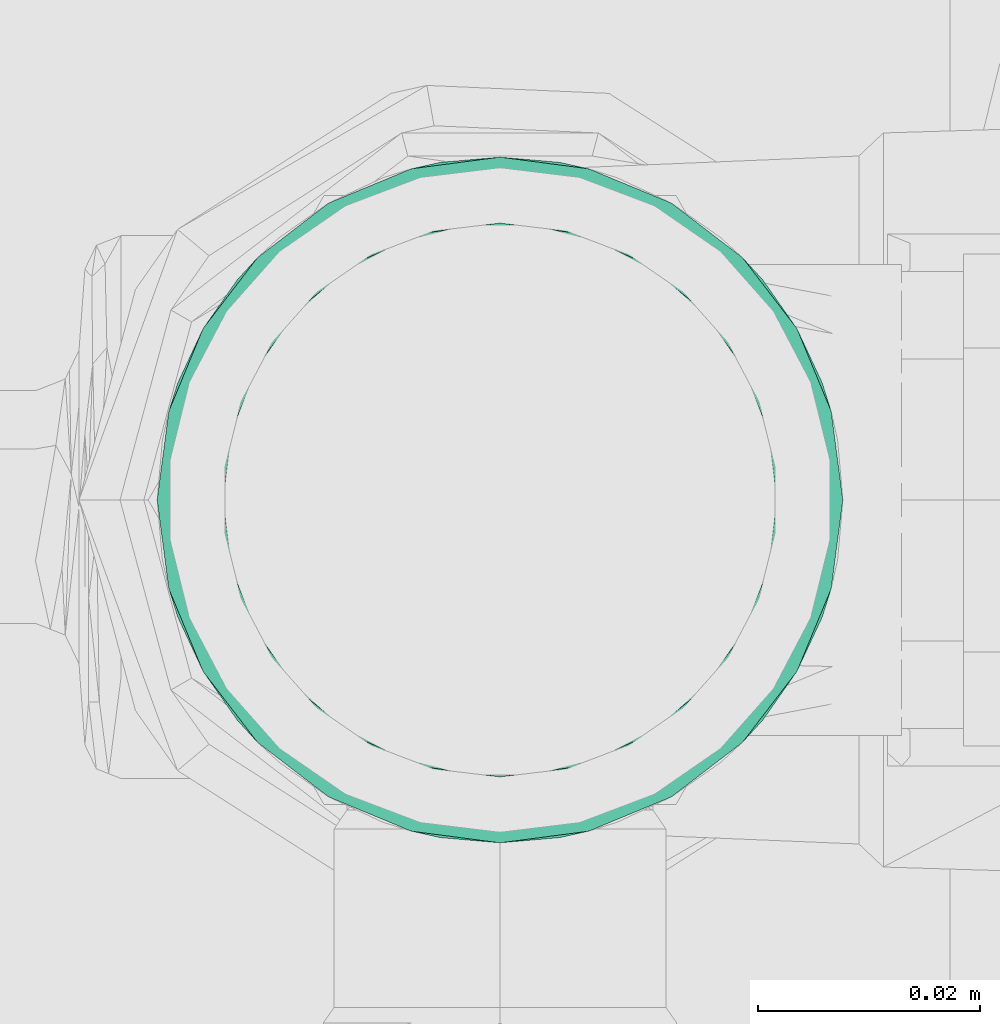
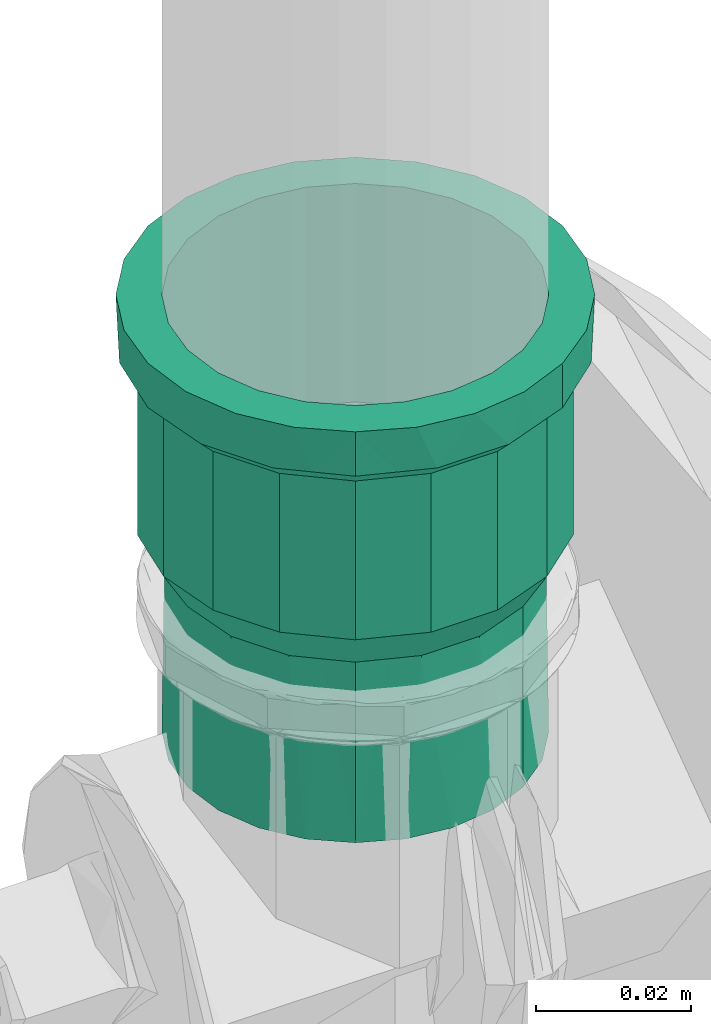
# One storey, part 79 of 589: 1 flow fitting.
"""IFC2X3 building model written with IfcOpenShell, lengths in millimetres."""

from ifc_helpers import new_model, entity, si_unit, converted_unit, derived_unit, direction, frame, origin, place, context, subcontext, project, spatial, faceted_brep, source, transform, mapped, material, type_object, type_shapes, element, save


model = new_model("IFC2X3")

# Units and contexts
model_context = context("Model", 3, precision=0.01, world=origin(), true_north=direction((6.123031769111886e-17, 1.0)))
body_context = subcontext(model_context, "Body", "Model", "MODEL_VIEW")
ifc_project = project(units=[si_unit("LENGTHUNIT", "METRE", prefix="MILLI"), si_unit("AREAUNIT", "SQUARE_METRE"), si_unit("VOLUMEUNIT", "CUBIC_METRE"), converted_unit("PLANEANGLEUNIT", "DEGREE", entity("IfcRatioMeasure", 0.017453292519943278), si_unit("PLANEANGLEUNIT", "RADIAN"), dimensions=[0, 0, 0, 0, 0, 0, 0]), si_unit("MASSUNIT", "GRAM", prefix="KILO"), derived_unit("MASSDENSITYUNIT", [(si_unit("MASSUNIT", "GRAM", prefix="KILO"), 1), (si_unit("LENGTHUNIT", "METRE"), -3)]), derived_unit("IONCONCENTRATIONUNIT", [(si_unit("MASSUNIT", "GRAM", prefix="KILO"), 1), (si_unit("LENGTHUNIT", "METRE"), -3)]), derived_unit("MOMENTOFINERTIAUNIT", [(si_unit("LENGTHUNIT", "METRE"), 4)]), si_unit("TIMEUNIT", "SECOND"), si_unit("FREQUENCYUNIT", "HERTZ"), si_unit("THERMODYNAMICTEMPERATUREUNIT", "DEGREE_CELSIUS"), derived_unit("THERMALTRANSMITTANCEUNIT", [(si_unit("MASSUNIT", "GRAM", prefix="KILO"), 1), (si_unit("THERMODYNAMICTEMPERATUREUNIT", "KELVIN"), -1), (si_unit("TIMEUNIT", "SECOND"), -3)]), derived_unit("THERMALCONDUCTANCEUNIT", [(si_unit("MASSUNIT", "GRAM", prefix="KILO"), 1), (si_unit("THERMODYNAMICTEMPERATUREUNIT", "KELVIN"), -1), (si_unit("TIMEUNIT", "SECOND"), -3), (si_unit("LENGTHUNIT", "METRE"), 1)]), derived_unit("VOLUMETRICFLOWRATEUNIT", [(si_unit("LENGTHUNIT", "METRE"), 3), (si_unit("TIMEUNIT", "SECOND"), -1)]), derived_unit("MASSFLOWRATEUNIT", [(si_unit("MASSUNIT", "GRAM", prefix="KILO"), 1), (si_unit("TIMEUNIT", "SECOND"), -1)]), derived_unit("ROTATIONALFREQUENCYUNIT", [(si_unit("TIMEUNIT", "SECOND"), -1)]), si_unit("ELECTRICCURRENTUNIT", "AMPERE"), si_unit("ELECTRICVOLTAGEUNIT", "VOLT"), si_unit("POWERUNIT", "WATT"), si_unit("FORCEUNIT", "NEWTON", prefix="KILO"), si_unit("ILLUMINANCEUNIT", "LUX"), si_unit("LUMINOUSFLUXUNIT", "LUMEN"), si_unit("LUMINOUSINTENSITYUNIT", "CANDELA"), derived_unit("USERDEFINED", [(si_unit("MASSUNIT", "GRAM", prefix="KILO"), -1), (si_unit("LENGTHUNIT", "METRE"), -2), (si_unit("TIMEUNIT", "SECOND"), 3), (si_unit("LUMINOUSFLUXUNIT", "LUMEN"), 1)]), derived_unit("USERDEFINED", [(si_unit("MASSUNIT", "GRAM", prefix="KILO"), 1), (si_unit("TIMEUNIT", "SECOND"), -3), (si_unit("LENGTHUNIT", "METRE"), 3), (si_unit("ELECTRICCURRENTUNIT", "AMPERE"), -2)]), derived_unit("SOUNDPOWERUNIT", [(si_unit("MASSUNIT", "GRAM", prefix="KILO"), 1), (si_unit("TIMEUNIT", "SECOND"), -3), (si_unit("LENGTHUNIT", "METRE"), 2)]), derived_unit("SOUNDPRESSUREUNIT", [(si_unit("MASSUNIT", "GRAM", prefix="KILO"), 1), (si_unit("LENGTHUNIT", "METRE"), -1), (si_unit("TIMEUNIT", "SECOND"), -2)]), derived_unit("LINEARVELOCITYUNIT", [(si_unit("LENGTHUNIT", "METRE"), 1), (si_unit("TIMEUNIT", "SECOND"), -1)]), si_unit("PRESSUREUNIT", "PASCAL"), derived_unit("USERDEFINED", [(si_unit("MASSUNIT", "GRAM", prefix="KILO"), 1), (si_unit("LENGTHUNIT", "METRE"), -2), (si_unit("TIMEUNIT", "SECOND"), -2)]), derived_unit("LINEARFORCEUNIT", [(si_unit("MASSUNIT", "GRAM", prefix="KILO"), 1), (si_unit("TIMEUNIT", "SECOND"), -2)]), derived_unit("PLANARFORCEUNIT", [(si_unit("MASSUNIT", "GRAM", prefix="KILO"), 1), (si_unit("LENGTHUNIT", "METRE"), -1), (si_unit("TIMEUNIT", "SECOND"), -2)]), derived_unit("SPECIFICHEATCAPACITYUNIT", [(si_unit("THERMODYNAMICTEMPERATUREUNIT", "KELVIN"), -1), (si_unit("LENGTHUNIT", "METRE"), 2), (si_unit("TIMEUNIT", "SECOND"), -2)]), derived_unit("HEATINGVALUEUNIT", [(si_unit("LENGTHUNIT", "METRE"), 2), (si_unit("TIMEUNIT", "SECOND"), -2)]), derived_unit("VAPORPERMEABILITYUNIT", [(si_unit("LENGTHUNIT", "METRE"), -1), (si_unit("TIMEUNIT", "SECOND"), 1)]), derived_unit("DYNAMICVISCOSITYUNIT", [(si_unit("MASSUNIT", "GRAM", prefix="KILO"), 1), (si_unit("TIMEUNIT", "SECOND"), -1), (si_unit("LENGTHUNIT", "METRE"), -1)]), derived_unit("THERMALEXPANSIONCOEFFICIENTUNIT", [(si_unit("THERMODYNAMICTEMPERATUREUNIT", "KELVIN"), -1)]), derived_unit("MODULUSOFELASTICITYUNIT", [(si_unit("MASSUNIT", "GRAM", prefix="KILO"), 1), (si_unit("LENGTHUNIT", "METRE"), -1), (si_unit("TIMEUNIT", "SECOND"), -2)]), derived_unit("ISOTHERMALMOISTURECAPACITYUNIT", [(si_unit("LENGTHUNIT", "METRE"), 3), (si_unit("MASSUNIT", "GRAM", prefix="KILO"), -1)]), derived_unit("MOISTUREDIFFUSIVITYUNIT", [(si_unit("TIMEUNIT", "SECOND"), -1), (si_unit("LENGTHUNIT", "METRE"), 2)])], contexts=[model_context])

# Site, building, storey
site_placement = place(None, origin())
site = spatial("IfcSite", under=ifc_project, at=site_placement, Name="Default", CompositionType="ELEMENT")
building_placement = place(site_placement, origin())
building = spatial("IfcBuilding", under=site, at=building_placement, CompositionType="ELEMENT")
storey_placement = place(building_placement, frame((0.0, 0.0, 100.0)))
storey = spatial("IfcBuildingStorey", under=building, at=storey_placement, Name="TÉRREO", CompositionType="ELEMENT", Elevation=100.0)

# Flow fitting
ifc_material = material(Name="PVC Marrom")
pipe_fitting_type = type_object("IfcPipeFittingType", Name="PVC Marrom Soldável_Adaptador Curto com Bolsa e Rosca Aninhado_Rodrigo MEP:Adaptador", PredefinedType="NOTDEFINED", material=ifc_material)
shared_shape = source(origin(), body_context, "Body", "Brep", [
    faceted_brep([(0.0, 12.499999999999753, -21.65063509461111), (0.0, 21.884954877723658, -21.88495487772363), (0.0, 15.475000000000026, -26.803486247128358), (0.0, 17.677669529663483, -17.6776695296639), (0.0, 6.470476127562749, -24.14814565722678), (0.0, 26.803486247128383, -15.474999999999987), (0.0, 21.650635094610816, -12.500000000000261), (0.0, 24.148145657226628, -6.470476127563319), (0.0, 29.895404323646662, -8.01044944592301), (0.0, 25.0, 0.0), (0.0, 30.95, 0.0), (0.0, 24.14814565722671, 6.470476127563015), (0.0, 29.895404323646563, 8.010449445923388), (0.0, 21.65063509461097, 12.499999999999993), (0.0, 26.80348624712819, 15.475000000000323), (0.0, 17.6776695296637, 17.677669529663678), (0.0, 21.884954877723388, 21.884954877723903), (0.0, 12.500000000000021, 21.65063509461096), (0.0, 15.474999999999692, 26.803486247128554), (0.0, 6.4704761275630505, 24.1481456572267), (0.0, 8.010449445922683, 29.89540432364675), (0.0, 0.0, 25.0), (0.0, 0.0, 30.95), (0.0, -6.4704761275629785, 24.14814565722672), (0.0, -8.010449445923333, 29.895404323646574), (0.0, -12.49999999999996, 21.650635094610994), (0.0, -15.475000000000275, 26.803486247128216), (0.0, -17.677669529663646, 17.67766952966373), (0.0, -21.884954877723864, 21.884954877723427), (0.0, -21.65063509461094, 12.500000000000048), (0.0, -26.803486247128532, 15.474999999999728), (0.0, -29.89540432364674, 8.010449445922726), (0.0, -24.14814565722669, 6.4704761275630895), (0.0, -30.95, 0.0), (0.0, -25.0, 0.0), (0.0, -29.895404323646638, -8.010449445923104), (0.0, -24.148145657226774, -6.470476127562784), (0.0, -26.803486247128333, -15.475000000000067), (0.0, -21.6506350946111, -12.499999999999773), (0.0, -21.884954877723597, -21.884954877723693), (0.0, -17.677669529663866, -17.67766952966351), (0.0, -15.474999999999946, -26.803486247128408), (0.0, -12.500000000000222, -21.650635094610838), (0.0, -8.010449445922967, -29.895404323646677), (0.0, -6.470476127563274, -24.148145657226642), (0.0, 0.0, -30.95), (0.0, 0.0, -25.0), (0.0, 8.010449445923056, -29.895404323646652), (7.0, -30.016595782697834, 5.29316701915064), (7.0, -29.88065133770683, 6.064083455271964), (7.0, -29.083191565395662, 10.586334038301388), (7.0, -23.70796650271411, 19.895598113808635), (7.0, -19.590362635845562, 23.350189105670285), (7.0, -26.395579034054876, 15.24096607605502), (7.0, -5.3710129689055, 30.480398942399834), (7.0, -10.421885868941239, 28.6425895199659), (7.0, -30.95, 0.0), (7.0, -15.472758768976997, 26.804780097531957), (7.0, 10.42907040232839, 28.639974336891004), (7.0, 15.479482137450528, 26.80089798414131), (7.0, 5.37865866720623, 30.479050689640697), (7.0, 19.596219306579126, 23.345274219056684), (7.0, 23.712956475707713, 19.889650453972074), (7.0, 29.08584618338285, 10.57903832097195), (7.0, 30.95, 0.0), (7.0, 26.39940132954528, 15.234344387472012), (7.0, 0.0038228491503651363, 30.47972481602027), (7.0, 29.08584618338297, -10.579038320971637), (7.0, 23.71295647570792, -19.88965045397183), (7.0, 19.596219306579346, -23.3452742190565), (7.0, 26.39940132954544, -15.234344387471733), (7.0, 5.378658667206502, -30.47905068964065), (7.0, 10.429070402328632, -28.639974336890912), (7.0, 15.47948213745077, -26.800897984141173), (7.0, -30.0165957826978, -5.2931670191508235), (7.0, -10.421885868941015, -28.642589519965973), (7.0, -15.472758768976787, -26.804780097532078), (7.0, -5.3710129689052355, -30.480398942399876), (7.0, -19.590362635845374, -23.350189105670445), (7.0, -23.707966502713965, -19.895598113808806), (7.0, -29.083191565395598, -10.58633403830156), (7.0, -29.88065131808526, -6.064083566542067), (7.0, -26.395579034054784, -15.240966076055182), (7.0, 0.003822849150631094, -30.479724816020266), (9.400000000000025, -26.87493630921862, 9.782525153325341), (9.400000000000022, -27.737468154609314, 4.891262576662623), (34.4499999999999, -26.875116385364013, 9.782030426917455), (9.40000000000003, -18.102887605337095, 21.577234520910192), (34.4499999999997, -14.299296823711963, 24.768732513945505), (9.400000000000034, -14.297928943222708, 24.769522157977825), (9.400000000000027, -24.391391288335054, 14.083736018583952), (34.44999999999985, -24.391819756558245, 14.083085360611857), (34.4499999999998, -21.908523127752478, 18.384140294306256), (34.44999999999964, -4.965271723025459, 28.165689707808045), (9.400000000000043, -4.963197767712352, 28.16605524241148), (9.400000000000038, -9.63056335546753, 26.467788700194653), (9.400000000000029, -21.907846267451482, 18.384946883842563), (9.40000000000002, -28.600000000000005, 0.0), (34.44999999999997, -27.796398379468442, 4.557325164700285), (34.44999999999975, -18.103909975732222, 21.57643640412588), (34.44999999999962, 4.967670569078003, 28.165266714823), (9.400000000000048, 0.003532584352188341, 28.165432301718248), (34.44999999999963, 0.0011994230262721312, 28.165478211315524), (34.44999999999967, -9.632284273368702, 26.46721111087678), (9.400000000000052, 4.970262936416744, 28.164809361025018), (9.400000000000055, 9.63720237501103, 26.465372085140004), (34.449999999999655, 14.301406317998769, 24.76751455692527), (9.40000000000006, 14.304141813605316, 24.765934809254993), (34.449999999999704, 18.105747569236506, 21.574894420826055), (34.44999999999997, -27.73755819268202, 4.891015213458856), (34.449999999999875, 26.875949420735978, 9.779741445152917), (34.450000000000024, 28.600000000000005, 0.0), (9.400000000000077, 26.87738936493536, 9.77578339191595), (34.449999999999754, 21.910088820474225, 18.38227428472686), (9.40000000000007, 21.91245735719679, 18.379450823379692), (9.400000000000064, 18.108299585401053, 21.57269281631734), (34.44999999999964, 9.634538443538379, 26.46639063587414), (9.400000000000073, 24.394923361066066, 14.077617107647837), (34.450000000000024, -28.600000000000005, 0.0), (9.40000000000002, 28.600000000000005, 0.0), (34.44999999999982, 24.3930191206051, 14.081007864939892), (9.40000000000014, 26.87738936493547, -9.77578339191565), (34.45000000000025, 26.87594942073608, -9.77974144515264), (9.400000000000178, -18.10288760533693, -21.577234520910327), (34.45000000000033, -14.299296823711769, -24.76873251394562), (34.45000000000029, -18.10390997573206, -21.57643640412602), (9.400000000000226, 18.108299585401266, -21.57269281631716), (9.400000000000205, 21.912457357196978, -18.37945082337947), (34.450000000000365, 21.910088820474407, -18.38227428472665), (9.400000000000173, 24.394923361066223, -14.077617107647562), (34.45000000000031, 24.393019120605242, -14.081007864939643), (9.40000000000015, -21.907846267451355, -18.384946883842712), (34.45000000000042, 0.0011994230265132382, -28.165478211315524), (9.400000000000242, -4.963197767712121, -28.166055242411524), (9.40000000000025, 0.0035325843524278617, -28.165432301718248), (9.40000000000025, 9.637202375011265, -26.46537208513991), (9.400000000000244, 14.304141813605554, -24.765934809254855), (34.45000000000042, 14.301406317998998, -24.76751455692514), (9.400000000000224, -9.63056335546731, -26.467788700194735), (34.45000000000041, -4.965271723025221, -28.165689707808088), (34.45000000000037, -9.632284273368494, -26.467211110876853), (34.45000000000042, 9.634538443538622, -26.46639063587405), (9.400000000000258, 4.970262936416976, -28.164809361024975), (9.400000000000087, -26.874936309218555, -9.782525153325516), (9.40000000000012, -24.391391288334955, -14.083736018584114), (34.45000000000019, -24.391819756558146, -14.083085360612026), (34.450000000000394, 18.1057475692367, -21.574894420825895), (34.450000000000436, 4.967670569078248, -28.16526671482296), (34.45000000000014, -26.875116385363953, -9.782030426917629), (34.45000000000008, -27.796398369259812, -4.557325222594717), (9.400000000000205, -14.297928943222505, -24.769522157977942), (9.400000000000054, -27.737468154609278, -4.891262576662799), (34.450000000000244, -21.908523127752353, -18.38414029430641), (34.45000000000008, -27.737558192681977, -4.891015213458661), (69.0, 6.4704761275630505, -24.1481456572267), (69.0, 12.500000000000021, -21.65063509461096), (69.0, 17.6776695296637, -17.677669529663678), (69.0, 21.650635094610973, -12.499999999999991), (69.0, 24.14814565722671, -6.470476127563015), (69.0, 25.0, 0.0), (69.0, 24.148145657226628, 6.470476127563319), (69.0, 21.650635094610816, 12.500000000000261), (69.0, 17.677669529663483, 17.6776695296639), (69.0, 12.499999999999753, 21.65063509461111), (69.0, 6.470476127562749, 24.14814565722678), (69.0, 0.0, 25.0), (69.0, -6.470476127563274, 24.148145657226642), (69.0, -12.500000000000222, 21.650635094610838), (69.0, -17.67766952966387, 17.677669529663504), (69.0, -21.650635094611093, 12.499999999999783), (69.0, -24.148145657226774, 6.470476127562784), (69.0, -25.0, 0.0), (69.0, -24.14814565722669, -6.4704761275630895), (69.0, -21.650635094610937, -12.500000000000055), (69.0, -17.677669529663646, -17.67766952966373), (69.0, -12.49999999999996, -21.650635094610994), (69.0, -6.4704761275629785, -24.14814565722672), (69.0, 0.0, -25.0), (40.499999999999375, -8.41832461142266, 23.136178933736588), (40.49999999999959, -19.1502152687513, 16.070757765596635), (40.49999999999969, -21.321146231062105, 12.310958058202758), (40.49999999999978, -23.492077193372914, 8.551158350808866), (40.49999999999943, -12.498189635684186, 21.651680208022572), (40.49999999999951, -15.824202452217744, 18.861218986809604), (40.49999999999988, -24.246038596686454, 4.2755791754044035), (40.49999999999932, -4.3384595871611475, 24.620677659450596), (40.499999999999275, 4.344635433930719, 24.61958860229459), (40.499999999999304, 0.003087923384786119, 24.620133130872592), (40.49999999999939, 15.828933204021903, 18.85724896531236), (40.49999999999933, 12.503620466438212, 21.648544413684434), (40.49999999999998, -25.0, 0.0), (40.49999999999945, 19.154245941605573, 16.065953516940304), (40.49999999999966, 23.494221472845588, 8.545265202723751), (40.499999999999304, 8.424127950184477, 23.13406650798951), (40.49999999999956, 21.324233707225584, 12.305609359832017), (40.49999999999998, 25.0, 0.0), (40.500000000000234, 19.15424594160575, -16.065953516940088), (40.500000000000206, -15.824202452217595, -18.861218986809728), (40.50000000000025, -12.498189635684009, -21.65168020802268), (40.500000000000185, 21.32423370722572, -12.305609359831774), (40.50000000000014, 23.494221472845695, -8.545265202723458), (40.5000000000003, 12.503620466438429, -21.64854441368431), (40.50000000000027, 15.82893320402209, -18.8572489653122), (40.50000000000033, 4.344635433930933, -24.619588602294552), (40.50000000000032, 8.42412795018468, -23.13406650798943), (40.5000000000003, -4.3384595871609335, -24.62067765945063), (40.50000000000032, 0.00308792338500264, -24.620133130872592), (40.50000000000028, -8.41832461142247, -23.136178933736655), (40.50000000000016, -19.150215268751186, -16.070757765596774), (40.50000000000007, -23.49207719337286, -8.551158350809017), (40.500000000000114, -21.321146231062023, -12.31095805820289), (40.50000000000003, -24.246038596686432, -4.275579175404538), (9.40000000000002, -25.0, 0.0), (34.450000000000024, -25.0, 0.0), (34.450000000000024, -24.14814565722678, -6.470476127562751), (9.40000000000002, -24.14814565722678, -6.470476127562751), (7.0, -24.14814565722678, -6.470476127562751), (7.0, -25.0, 0.0), (34.450000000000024, -21.650635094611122, -12.499999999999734), (9.40000000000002, -21.650635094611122, -12.499999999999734), (7.0, -21.650635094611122, -12.499999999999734), (9.40000000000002, -12.500000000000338, -21.65063509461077), (7.0, -12.500000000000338, -21.65063509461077), (7.0, -17.677669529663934, -17.677669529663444), (9.40000000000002, -17.677669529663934, -17.677669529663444), (34.450000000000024, -17.677669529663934, -17.677669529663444), (34.450000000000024, -12.500000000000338, -21.65063509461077), (9.40000000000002, -6.470476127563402, -24.148145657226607), (7.0, -6.470476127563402, -24.148145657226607), (34.450000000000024, -6.470476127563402, -24.148145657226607), (34.450000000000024, 0.0, -25.0), (9.40000000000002, 0.0, -25.0), (7.0, 0.0, -25.0), (34.450000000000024, 6.470476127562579, -24.148145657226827), (9.40000000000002, 6.470476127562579, -24.148145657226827), (7.0, 6.470476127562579, -24.148145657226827), (34.450000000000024, 12.49999999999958, -21.65063509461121), (9.40000000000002, 12.49999999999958, -21.65063509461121), (7.0, 12.49999999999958, -21.65063509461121), (34.450000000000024, 24.148145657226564, -6.470476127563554), (34.450000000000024, 25.0, 0.0), (9.40000000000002, 25.0, 0.0), (7.0, 25.0, 0.0), (7.0, 24.14814565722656, -6.470476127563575), (9.40000000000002, 24.148145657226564, -6.470476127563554), (34.450000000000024, 17.677669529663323, -17.677669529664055), (9.40000000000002, 17.677669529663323, -17.677669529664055), (7.0, 17.677669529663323, -17.677669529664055), (34.450000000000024, 21.650635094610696, -12.500000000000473), (9.40000000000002, 21.650635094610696, -12.500000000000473), (7.0, 21.650635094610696, -12.500000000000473), (34.450000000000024, 24.148145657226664, 6.470476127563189), (9.40000000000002, 24.148145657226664, 6.470476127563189), (7.0, 24.148145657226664, 6.470476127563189), (34.450000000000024, 21.65063509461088, 12.50000000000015), (9.40000000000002, 21.65063509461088, 12.50000000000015), (7.0, 21.65063509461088, 12.50000000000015), (9.40000000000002, 12.49999999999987, 21.650635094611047), (7.0, 12.49999999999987, 21.650635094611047), (7.0, 17.677669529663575, 17.677669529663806), (9.40000000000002, 17.677669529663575, 17.677669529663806), (34.450000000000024, 17.677669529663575, 17.677669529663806), (34.450000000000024, 12.49999999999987, 21.650635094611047), (9.40000000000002, 6.470476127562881, 24.14814565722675), (7.0, 6.470476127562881, 24.14814565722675), (34.450000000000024, 6.470476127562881, 24.14814565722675), (34.450000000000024, 0.0, 25.0), (9.40000000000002, 0.0, 25.0), (7.0, 0.0, 25.0), (9.40000000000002, -17.677669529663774, 17.677669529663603), (7.0, -17.677669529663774, 17.677669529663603), (7.0, -12.50000000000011, 21.650635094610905), (9.40000000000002, -12.50000000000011, 21.650635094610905), (34.450000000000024, -12.50000000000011, 21.650635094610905), (34.450000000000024, -17.677669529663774, 17.677669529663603), (9.40000000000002, -24.14814565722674, 6.470476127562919), (7.0, -24.14814565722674, 6.470476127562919), (7.0, -21.650635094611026, 12.499999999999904), (9.40000000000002, -21.650635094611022, 12.499999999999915), (34.450000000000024, -21.650635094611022, 12.499999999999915), (34.450000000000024, -24.14814565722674, 6.470476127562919), (7.0, -6.470476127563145, 24.148145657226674), (9.40000000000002, -6.470476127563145, 24.148145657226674), (34.450000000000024, -6.470476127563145, 24.148145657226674)], [[[0, 1, 2]], [[3, 1, 0]], [[4, 0, 2]], [[1, 3, 5]], [[5, 3, 6]], [[5, 6, 7]], [[8, 5, 7]], [[9, 8, 7]], [[10, 8, 9]], [[10, 9, 11]], [[12, 10, 11]], [[12, 11, 13]], [[14, 12, 13]], [[14, 13, 15]], [[15, 16, 14]], [[15, 17, 16]], [[18, 16, 17]], [[19, 18, 17]], [[18, 19, 20]], [[21, 20, 19]], [[22, 20, 21]], [[21, 23, 22]], [[24, 22, 23]], [[25, 24, 23]], [[24, 25, 26]], [[25, 27, 26]], [[27, 28, 26]], [[28, 27, 29]], [[28, 29, 30]], [[30, 29, 31]], [[31, 29, 32]], [[33, 31, 32]], [[32, 34, 33]], [[33, 34, 35]], [[34, 36, 35]], [[37, 35, 36]], [[37, 36, 38]], [[39, 37, 38]], [[40, 39, 38]], [[40, 41, 39]], [[42, 41, 40]], [[43, 41, 42]], [[42, 44, 43]], [[43, 44, 45]], [[44, 46, 45]], [[46, 4, 47]], [[45, 46, 47]], [[2, 47, 4]], [[31, 48, 49, 50]], [[28, 51, 52]], [[51, 30, 50, 53]], [[54, 24, 55]], [[30, 31, 50]], [[56, 48, 33]], [[52, 57, 26]], [[52, 26, 28]], [[30, 51, 28]], [[58, 59, 18]], [[58, 18, 20]], [[26, 57, 55]], [[26, 55, 24]], [[22, 24, 54]], [[33, 48, 31]], [[20, 60, 58]], [[16, 61, 62]], [[12, 63, 64]], [[63, 14, 62, 65]], [[12, 64, 10]], [[18, 61, 16]], [[22, 54, 66, 60]], [[22, 60, 20]], [[14, 16, 62]], [[59, 61, 18]], [[14, 63, 12]], [[8, 64, 67]], [[1, 68, 69]], [[68, 5, 67, 70]], [[71, 47, 72]], [[5, 8, 67]], [[8, 10, 64]], [[2, 72, 47]], [[69, 73, 2]], [[5, 68, 1]], [[74, 33, 35]], [[75, 76, 41]], [[2, 73, 72]], [[75, 41, 43]], [[45, 47, 71]], [[69, 2, 1]], [[43, 77, 75]], [[39, 78, 79]], [[35, 80, 81, 74]], [[80, 37, 79, 82]], [[37, 80, 35]], [[41, 78, 39]], [[45, 71, 83, 77]], [[45, 77, 43]], [[37, 39, 79]], [[76, 78, 41]], [[74, 56, 33]], [[84, 85, 86]], [[87, 88, 89]], [[90, 91, 92]], [[93, 94, 95]], [[92, 96, 90]], [[85, 97, 98]], [[99, 87, 96]], [[91, 84, 86]], [[100, 101, 102]], [[93, 95, 103]], [[89, 103, 95]], [[84, 91, 90]], [[100, 104, 101]], [[88, 87, 99]], [[105, 106, 107]], [[108, 107, 106]], [[85, 98, 109, 86]], [[102, 94, 93]], [[110, 111, 112]], [[113, 114, 115]], [[116, 104, 100]], [[112, 117, 110]], [[113, 115, 108]], [[104, 116, 105]], [[97, 118, 98]], [[115, 107, 108]], [[119, 112, 111]], [[99, 96, 92]], [[117, 114, 120]], [[110, 117, 120]], [[103, 89, 88]], [[102, 101, 94]], [[120, 114, 113]], [[106, 105, 116]], [[121, 111, 122]], [[123, 124, 125]], [[126, 127, 128]], [[129, 122, 130]], [[125, 131, 123]], [[129, 121, 122]], [[132, 133, 134]], [[135, 136, 137]], [[138, 139, 140]], [[119, 111, 121]], [[130, 127, 129]], [[141, 142, 135]], [[143, 144, 145]], [[126, 128, 146]], [[134, 147, 132]], [[135, 137, 141]], [[132, 139, 133]], [[138, 133, 139]], [[137, 136, 146]], [[143, 145, 148]], [[147, 142, 141]], [[149, 118, 97]], [[123, 150, 124]], [[124, 150, 140]], [[148, 151, 143]], [[146, 136, 126]], [[152, 144, 131]], [[151, 148, 153, 149]], [[144, 152, 145]], [[152, 131, 125]], [[142, 147, 134]], [[149, 97, 151]], [[128, 127, 130]], [[140, 150, 138]], [[154, 155, 156, 157, 158, 159, 160, 161, 162, 163, 164, 165, 166, 167, 168, 169, 170, 171, 172, 173, 174, 175, 176, 177]], [[178, 167, 166]], [[169, 168, 179]], [[169, 179, 180, 181]], [[182, 183, 167]], [[170, 181, 184]], [[166, 185, 178]], [[179, 168, 183]], [[165, 186, 187, 185]], [[165, 185, 166]], [[167, 183, 168]], [[188, 189, 163]], [[184, 171, 170]], [[184, 190, 171]], [[161, 191, 162]], [[169, 181, 170]], [[161, 160, 192]], [[163, 193, 164]], [[161, 192, 194, 191]], [[195, 160, 159]], [[164, 193, 186]], [[186, 165, 164]], [[189, 193, 163]], [[188, 163, 162]], [[162, 191, 188]], [[160, 195, 192]], [[178, 182, 167]], [[195, 159, 158]], [[157, 156, 196]], [[197, 198, 175]], [[157, 196, 199, 200]], [[201, 202, 155]], [[200, 195, 158]], [[154, 203, 204]], [[196, 156, 202]], [[177, 205, 206, 203]], [[197, 175, 174]], [[155, 202, 156]], [[204, 201, 155]], [[175, 198, 207]], [[157, 200, 158]], [[204, 155, 154]], [[173, 208, 174]], [[173, 172, 209]], [[173, 209, 210, 208]], [[171, 190, 211]], [[205, 177, 176]], [[207, 205, 176]], [[175, 207, 176]], [[174, 208, 197]], [[211, 209, 172]], [[171, 211, 172]], [[177, 203, 154]], [[212, 213, 214, 215, 216, 36, 34, 217]], [[215, 214, 218, 219, 220, 38, 36, 216]], [[221, 222, 42, 40, 223, 224, 225, 226]], [[225, 224, 223, 40, 38, 220, 219, 218]], [[227, 228, 44, 42, 222, 221, 226, 229]], [[227, 229, 230, 231, 232, 46, 44, 228]], [[231, 230, 233, 234, 235, 4, 46, 232]], [[234, 233, 236, 237, 238, 0, 4, 235]], [[239, 240, 241, 242, 9, 7, 243, 244]], [[237, 236, 245, 246, 247, 3, 0, 238]], [[245, 248, 249, 250, 6, 3, 247, 246]], [[248, 239, 244, 243, 7, 6, 250, 249]], [[241, 240, 251, 252, 253, 11, 9, 242]], [[252, 251, 254, 255, 256, 13, 11, 253]], [[257, 258, 17, 15, 259, 260, 261, 262]], [[261, 260, 259, 15, 13, 256, 255, 254]], [[263, 264, 19, 17, 258, 257, 262, 265]], [[263, 265, 266, 267, 268, 21, 19, 264]], [[269, 270, 27, 25, 271, 272, 273, 274]], [[275, 276, 32, 29, 277, 278, 279, 280]], [[274, 279, 278, 277, 29, 27, 270, 269]], [[212, 217, 34, 32, 276, 275, 280, 213]], [[273, 272, 271, 25, 23, 281, 282, 283]], [[267, 266, 283, 282, 281, 23, 21, 268]], [[64, 119, 121, 67]], [[81, 80, 143, 151, 97, 56, 74]], [[73, 136, 135, 142, 71, 72]], [[71, 142, 134, 133, 77, 83]], [[73, 69, 68, 127, 126, 136]], [[127, 68, 70, 67, 121, 129]], [[77, 133, 138, 150, 76, 75]], [[143, 80, 82, 79, 131, 144]], [[78, 76, 150, 123, 131, 79]], [[84, 50, 49, 48, 56, 97, 85]], [[53, 50, 84, 90, 96, 51]], [[52, 51, 96, 87, 89, 57]], [[89, 95, 94, 54, 55, 57]], [[101, 104, 60, 66, 54, 94]], [[105, 107, 59, 58, 60, 104]], [[112, 119, 64, 63]], [[114, 117, 112, 63, 65, 62]], [[107, 115, 114, 62, 61, 59]], [[233, 230, 229, 226, 225, 218, 214, 213, 280, 279, 274, 273, 283, 266, 265, 262, 261, 254, 251, 240, 239, 248, 245, 236]], [[190, 109, 98, 118]], [[184, 86, 109]], [[181, 86, 184]], [[185, 93, 178]], [[103, 88, 182]], [[99, 92, 179]], [[182, 88, 183]], [[91, 86, 181]], [[103, 182, 178]], [[178, 93, 103]], [[102, 185, 187]], [[180, 92, 91]], [[187, 100, 102]], [[91, 181, 180]], [[183, 88, 99]], [[99, 179, 183]], [[187, 186, 100]], [[191, 113, 188]], [[116, 100, 186]], [[179, 92, 180]], [[93, 185, 102]], [[189, 106, 193]], [[192, 195, 111]], [[120, 113, 191]], [[192, 110, 194]], [[108, 106, 189]], [[120, 191, 194]], [[194, 110, 120]], [[109, 190, 184]], [[188, 113, 108]], [[192, 111, 110]], [[108, 189, 188]], [[193, 106, 116]], [[116, 186, 193]], [[195, 200, 111]], [[203, 141, 204]], [[201, 146, 202]], [[196, 130, 199]], [[203, 147, 141]], [[201, 137, 146]], [[205, 132, 206]], [[196, 128, 130]], [[202, 128, 196]], [[111, 200, 122]], [[199, 130, 122]], [[146, 128, 202]], [[207, 139, 205]], [[206, 147, 203]], [[204, 141, 137]], [[199, 122, 200]], [[205, 139, 132]], [[204, 137, 201]], [[198, 124, 140]], [[198, 140, 207]], [[190, 153, 211]], [[209, 145, 210]], [[190, 118, 149, 153]], [[209, 148, 145]], [[208, 125, 197]], [[208, 152, 125]], [[210, 152, 208]], [[139, 207, 140]], [[125, 124, 197]], [[210, 145, 152]], [[211, 153, 148]], [[197, 124, 198]], [[206, 132, 147]], [[211, 148, 209]]]),
])
type_shapes(pipe_fitting_type, [shared_shape])
flow_fitting_placement = place(storey_placement, frame((-7562.714972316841, -528.9241377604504, 988.0809161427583), z_axis=(0.0, 1.0, 0.0), x_axis=(0.0, 0.0, -1.0)))
element("IfcFlowFitting", 1, at=flow_fitting_placement, inside=storey, type_object=pipe_fitting_type, material=ifc_material, Name="PVC Marrom Soldável_Adaptador Curto com Bolsa e Rosca Aninhado_Rodrigo MEP:Adaptador", ObjectType="PVC Marrom Soldável_Adaptador Curto com Bolsa e Rosca Aninhado_Rodrigo MEP:Adaptador", context=body_context, shape_type="MappedRepresentation", body=[
    mapped(shared_shape, transform((0.0, 0.0, 0.0), scale=1.0)),
])

save(model, "model.ifc")
